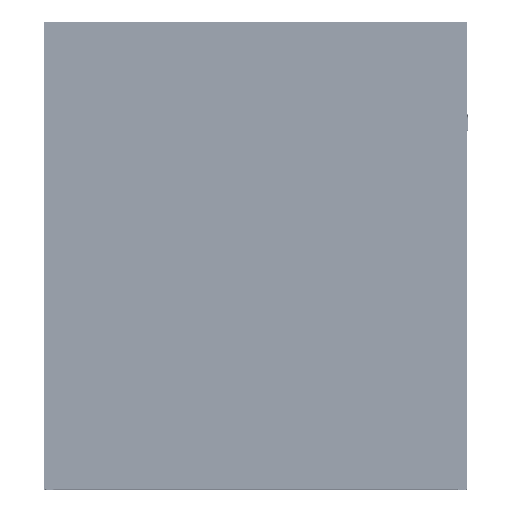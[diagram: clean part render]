
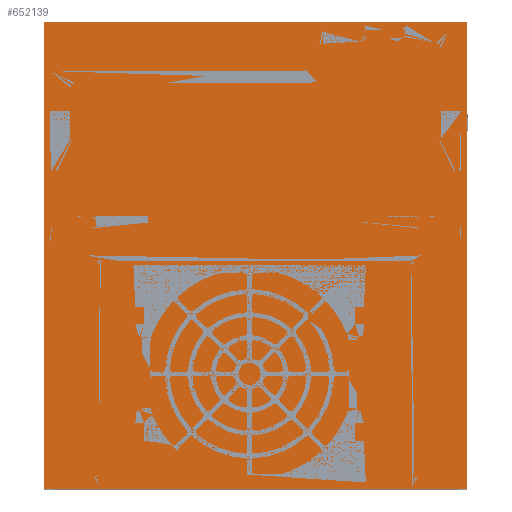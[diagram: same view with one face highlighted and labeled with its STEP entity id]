
A CAD part, top view. The second image highlights one B-rep face of the part: STEP entity #652139.
In plain terms, the highlighted planar face has unit normal (0, 0, 1).
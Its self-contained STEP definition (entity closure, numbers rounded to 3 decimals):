
#652049=DIRECTION('',(0.,1.,0.));
#652050=VECTOR('',#652049,193.);
#652051=CARTESIAN_POINT('',(87.5,0.,150.));
#652052=LINE('',#652051,#652050);
#652057=DIRECTION('',(-1.,0.,0.));
#652058=VECTOR('',#652057,175.);
#652059=CARTESIAN_POINT('',(87.5,0.,150.));
#652060=LINE('',#652059,#652058);
#652061=DIRECTION('',(0.,1.,0.));
#652062=VECTOR('',#652061,193.);
#652063=CARTESIAN_POINT('',(-87.5,0.,150.));
#652064=LINE('',#652063,#652062);
#652065=DIRECTION('',(1.,0.,0.));
#652066=VECTOR('',#652065,175.);
#652067=CARTESIAN_POINT('',(-87.5,193.,150.));
#652068=LINE('',#652067,#652066);
#652093=CARTESIAN_POINT('',(87.5,0.,150.));
#652095=VERTEX_POINT('',#652093);
#652099=CARTESIAN_POINT('',(-87.5,0.,150.));
#652100=VERTEX_POINT('',#652099);
#652101=CARTESIAN_POINT('',(87.5,193.,150.));
#652103=VERTEX_POINT('',#652101);
#652107=CARTESIAN_POINT('',(-87.5,193.,150.));
#652108=VERTEX_POINT('',#652107);
#652125=CARTESIAN_POINT('',(-87.5,0.,150.));
#652126=DIRECTION('',(0.,0.,1.));
#652127=DIRECTION('',(1.,0.,0.));
#652128=AXIS2_PLACEMENT_3D('',#652125,#652126,#652127);
#652129=PLANE('',#652128);
#652131=ORIENTED_EDGE('',*,*,#652130,.T.);
#652133=ORIENTED_EDGE('',*,*,#652132,.T.);
#652135=ORIENTED_EDGE('',*,*,#652134,.T.);
#652136=ORIENTED_EDGE('',*,*,#652116,.F.);
#652137=EDGE_LOOP('',(#652131,#652133,#652135,#652136));
#652138=FACE_OUTER_BOUND('',#652137,.F.);
#652116=EDGE_CURVE('',#652095,#652103,#652052,.T.);
#652130=EDGE_CURVE('',#652095,#652100,#652060,.T.);
#652132=EDGE_CURVE('',#652100,#652108,#652064,.T.);
#652134=EDGE_CURVE('',#652108,#652103,#652068,.T.);
#652139=ADVANCED_FACE('',(#652138),#652129,.T.);
